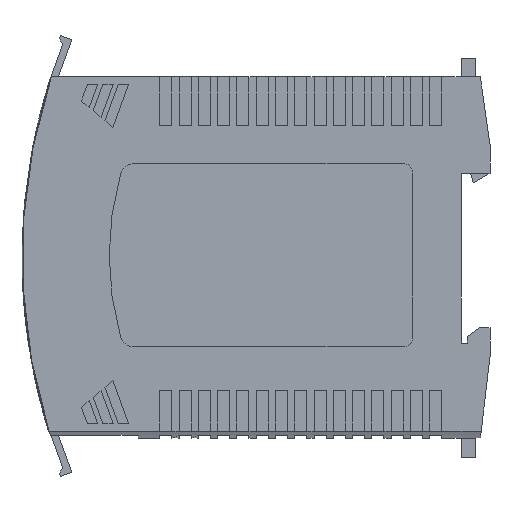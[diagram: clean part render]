
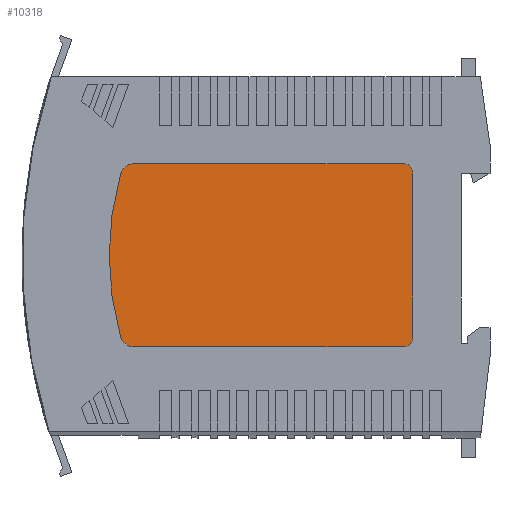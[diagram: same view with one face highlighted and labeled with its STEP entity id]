
A CAD part, left-side view. The second image highlights one B-rep face of the part: STEP entity #10318.
In plain terms, the highlighted planar face has unit normal (-1, 0, 0).
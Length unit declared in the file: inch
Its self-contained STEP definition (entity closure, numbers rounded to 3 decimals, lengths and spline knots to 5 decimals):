
#3317=CARTESIAN_POINT('',(-1.77559,2.66835,
-2.08661));
#3318=DIRECTION('',(1.,0.,0.));
#3319=DIRECTION('',(0.,0.,-1.));
#3320=AXIS2_PLACEMENT_3D('',#3317,#3318,#3319);
#3322=CARTESIAN_POINT('',(-1.77559,0.44619,
-1.45669));
#3323=DIRECTION('',(1.,0.,0.));
#3324=DIRECTION('',(0.,0.962,-0.273));
#3325=AXIS2_PLACEMENT_3D('',#3322,#3323,#3324);
#3327=CARTESIAN_POINT('',(-1.77559,2.66835,
-0.82677));
#3328=DIRECTION('',(1.,0.,0.));
#3329=DIRECTION('',(0.,0.962,0.273));
#3330=AXIS2_PLACEMENT_3D('',#3327,#3328,#3329);
#3332=DIRECTION('',(0.,-1.,0.));
#3333=VECTOR('',#3332,2.19591);
#3334=CARTESIAN_POINT('',(-1.77559,2.66835,
-0.70866));
#3335=LINE('',#3334,#3333);
#3336=CARTESIAN_POINT('',(-1.77559,0.47244,
-0.7874));
#3337=DIRECTION('',(1.,0.,0.));
#3338=DIRECTION('',(0.,0.,1.));
#3339=AXIS2_PLACEMENT_3D('',#3336,#3337,#3338);
#3341=DIRECTION('',(0.,0.,-1.));
#3342=VECTOR('',#3341,1.33858);
#3343=CARTESIAN_POINT('',(-1.77559,0.3937,
-0.7874));
#3344=LINE('',#3343,#3342);
#3345=CARTESIAN_POINT('',(-1.77559,0.47244,
-2.12598));
#3346=DIRECTION('',(1.,0.,0.));
#3347=DIRECTION('',(0.,-1.,0.));
#3348=AXIS2_PLACEMENT_3D('',#3345,#3346,#3347);
#3350=DIRECTION('',(0.,1.,0.));
#3351=VECTOR('',#3350,2.19591);
#3352=CARTESIAN_POINT('',(-1.77559,0.47244,
-2.20472));
#3353=LINE('',#3352,#3351);
#7121=CARTESIAN_POINT('',(-1.77559,0.47244,
-2.20472));
#7122=CARTESIAN_POINT('',(-1.77559,0.3937,
-2.12598));
#7123=VERTEX_POINT('',#7121);
#7124=VERTEX_POINT('',#7122);
#7129=CARTESIAN_POINT('',(-1.77559,0.3937,
-0.7874));
#7130=CARTESIAN_POINT('',(-1.77559,0.47244,
-0.70866));
#7131=VERTEX_POINT('',#7129);
#7132=VERTEX_POINT('',#7130);
#7155=CARTESIAN_POINT('',(-1.77559,2.66835,
-0.70866));
#7156=CARTESIAN_POINT('',(-1.77559,2.78198,
-0.79456));
#7157=VERTEX_POINT('',#7155);
#7158=VERTEX_POINT('',#7156);
#7163=CARTESIAN_POINT('',(-1.77559,2.78198,
-2.11883));
#7164=CARTESIAN_POINT('',(-1.77559,2.66835,
-2.20472));
#7165=VERTEX_POINT('',#7163);
#7166=VERTEX_POINT('',#7164);
#10295=CARTESIAN_POINT('',(-1.77559,0.,0.));
#10296=DIRECTION('',(-1.,0.,0.));
#10297=DIRECTION('',(0.,1.,0.));
#10298=AXIS2_PLACEMENT_3D('',#10295,#10296,#10297);
#10299=PLANE('',#10298);
#10301=ORIENTED_EDGE('',*,*,#10300,.T.);
#10303=ORIENTED_EDGE('',*,*,#10302,.T.);
#10305=ORIENTED_EDGE('',*,*,#10304,.T.);
#10307=ORIENTED_EDGE('',*,*,#10306,.T.);
#10309=ORIENTED_EDGE('',*,*,#10308,.T.);
#10311=ORIENTED_EDGE('',*,*,#10310,.T.);
#10313=ORIENTED_EDGE('',*,*,#10312,.T.);
#10315=ORIENTED_EDGE('',*,*,#10314,.T.);
#10316=EDGE_LOOP('',(#10301,#10303,#10305,#10307,#10309,#10311,#10313,#10315));
#10317=FACE_OUTER_BOUND('',#10316,.F.);
#10318=ADVANCED_FACE('',(#10317),#10299,.T.);
#3321=CIRCLE('',#3320,0.11811);
#3326=CIRCLE('',#3325,2.42782);
#3331=CIRCLE('',#3330,0.11811);
#3340=CIRCLE('',#3339,0.07874);
#3349=CIRCLE('',#3348,0.07874);
#10300=EDGE_CURVE('',#7166,#7165,#3321,.T.);
#10302=EDGE_CURVE('',#7165,#7158,#3326,.T.);
#10304=EDGE_CURVE('',#7158,#7157,#3331,.T.);
#10306=EDGE_CURVE('',#7157,#7132,#3335,.T.);
#10308=EDGE_CURVE('',#7132,#7131,#3340,.T.);
#10310=EDGE_CURVE('',#7131,#7124,#3344,.T.);
#10312=EDGE_CURVE('',#7124,#7123,#3349,.T.);
#10314=EDGE_CURVE('',#7123,#7166,#3353,.T.);
